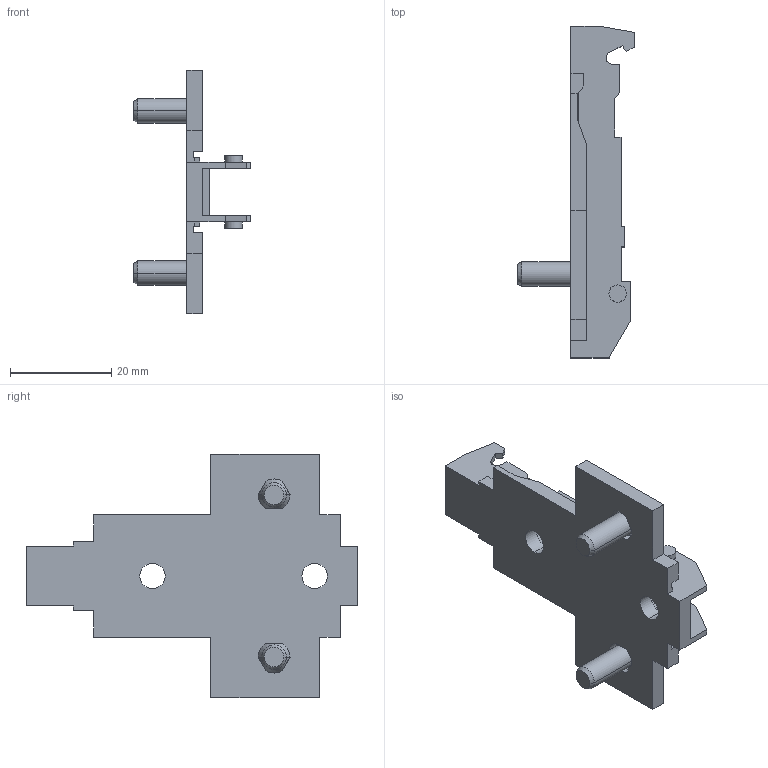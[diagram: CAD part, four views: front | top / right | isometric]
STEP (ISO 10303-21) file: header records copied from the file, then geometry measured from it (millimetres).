
FILE_DESCRIPTION (( 'STEP AP214' ), '1' );
FILE_NAME ('1D_Kreuzmontageplatte 28_32_Euro_vorgestellt 13,5_2.step', '2018-10-02T12:38:50', ( '' ), ( '' ), 'SwSTEP 2.0', 'SolidWorks 2017', '' );
FILE_SCHEMA (( 'AUTOMOTIVE_DESIGN' ));
Length unit declared in the file: millimetre
Products named in the file (1): 1D_Kreuzmontageplatte 28_32_Euro_vorgestellt 13,5_2
Bounding box: 23 x 65.5 x 48 mm (x, y, z)
Volume: 6777.6 mm3; surface area: 7163 mm2
Topology: 1 solids, 1 shells, 138 faces, 390 edges, 254 vertices
Faces by surface type: plane 92, cylinder 34, cone 12
Entity records: 4550 total; most frequent: CARTESIAN_POINT 873, ORIENTED_EDGE 780, DIRECTION 730, EDGE_CURVE 390, VECTOR 292, LINE 292, VERTEX_POINT 254, AXIS2_PLACEMENT_3D 219
